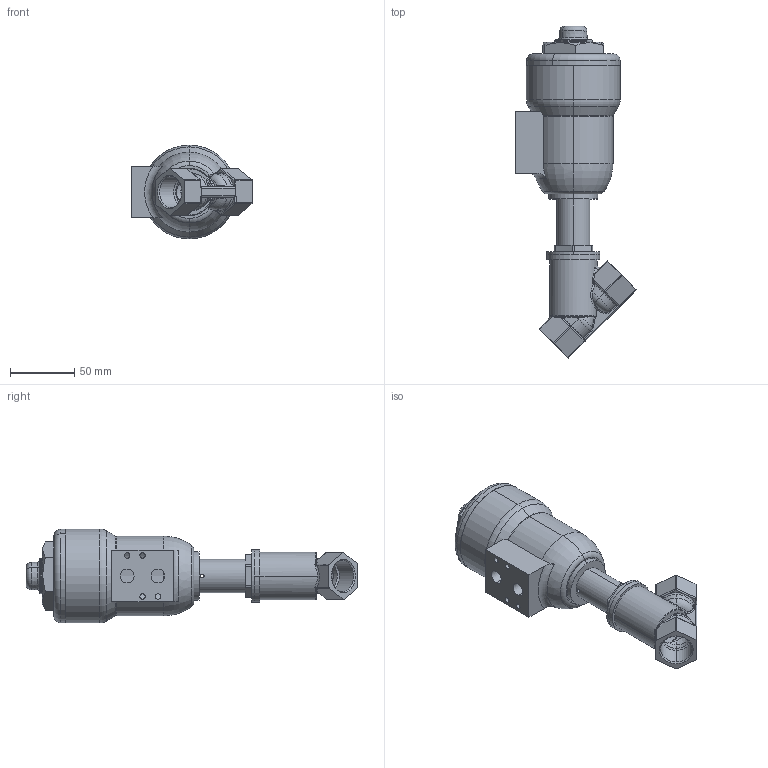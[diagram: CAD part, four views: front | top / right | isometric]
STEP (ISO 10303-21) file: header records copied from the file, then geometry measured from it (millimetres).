
FILE_DESCRIPTION (( 'STEP AP203' ), '1' );
FILE_NAME ('PCIPFM_020_1_1.STEP', '2015-07-27T07:25:48', ( 'user' ), ( '' ), 'SwSTEP 2.0', 'SolidWorks 2013', '' );
FILE_SCHEMA (( 'CONFIG_CONTROL_DESIGN' ));
Length unit declared in the file: millimetre
Products named in the file (1): PCIPFM_020_1_1
Bounding box: 94.22 x 258.69 x 73 mm (x, y, z)
Surface area: 58827.8 mm2 (no closed solid volume)
Topology: 0 solids, 6 shells, 321 faces, 847 edges, 515 vertices
Faces by surface type: cylinder 102, plane 73, bspline 58, torus 47, cone 27, sphere 14
Entity records: 12653 total; most frequent: CARTESIAN_POINT 5208, ORIENTED_EDGE 1530, DIRECTION 1515, EDGE_CURVE 839, AXIS2_PLACEMENT_3D 620, VERTEX_POINT 513, CIRCLE 356, EDGE_LOOP 342
